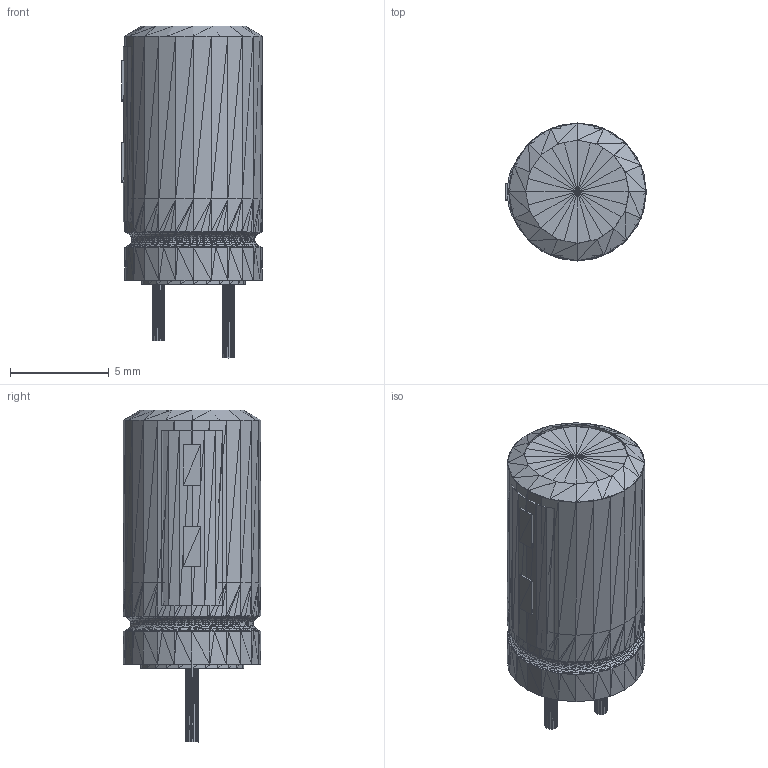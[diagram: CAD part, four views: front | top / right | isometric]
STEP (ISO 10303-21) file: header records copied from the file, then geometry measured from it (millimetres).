
FILE_DESCRIPTION(('HOOPS Exchange Step'),'2;1');
FILE_NAME('***.stp');
FILE_SCHEMA( ('AP242_MANAGED_MODEL_BASED_3D_ENGINEERING_MIM_LF {1 0 10303 442 1 1 4 }') );
Length unit declared in the file: inch
Products named in the file (11): CAPOLV275X500MIL_2; CAPOLV275X500MIL_3; CAPOLV275X500MIL_4; CAPOLV275X500MIL_5; CAPOLV275X500MIL_6; CAPOLV275X500MIL_7; CAPOLV275X500MIL_8; CAPOLV275X500MIL_9; CAPOLV275X500MIL_10; CAPOLV275X500MIL_11; CAPOLV275X500MIL
Assembly tree (10 placements, depth 2):
  CAPOLV275X500MIL
    CAPOLV275X500MIL_2
    CAPOLV275X500MIL_3
    CAPOLV275X500MIL_4
    CAPOLV275X500MIL_5
    CAPOLV275X500MIL_6
    CAPOLV275X500MIL_7
    CAPOLV275X500MIL_8
    CAPOLV275X500MIL_9
    CAPOLV275X500MIL_10
    CAPOLV275X500MIL_11
Bounding box: 7.13 x 6.99 x 16.84 mm (x, y, z)
Volume: 532.1 mm3; surface area: 690 mm2
Topology: 10 solids, 10 shells, 2004 faces, 3006 edges, 1020 vertices
Faces by surface type: plane 2004
Entity records: 39590 total; most frequent: DIRECTION 7058, CARTESIAN_POINT 6052, ORIENTED_EDGE 6012, VECTOR 3006, LINE 3006, EDGE_CURVE 3006, AXIS2_PLACEMENT_3D 2026, PLANE 2004
